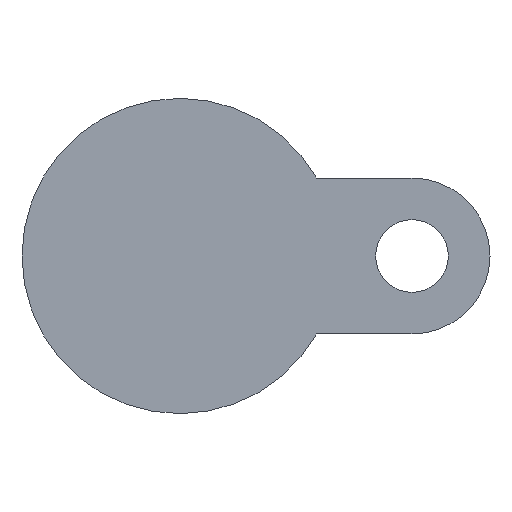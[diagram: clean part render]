
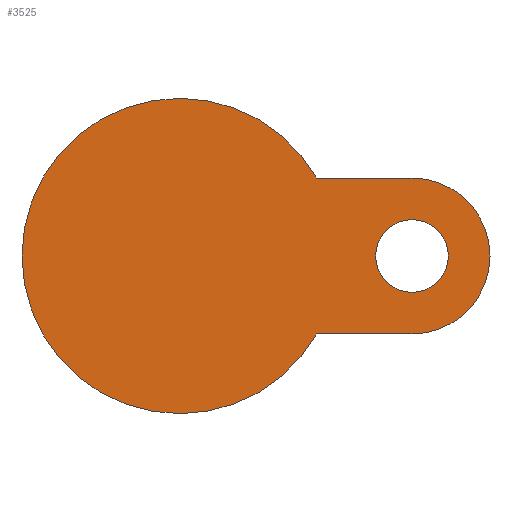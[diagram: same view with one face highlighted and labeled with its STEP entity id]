
A CAD part, front view. The second image highlights one B-rep face of the part: STEP entity #3525.
In plain terms, the highlighted planar face has unit normal (0, -1, 0).
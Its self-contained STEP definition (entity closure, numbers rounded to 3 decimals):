
#92 = DIRECTION ( 'NONE',  ( -1., 0., 0. ) ) ;
#100 = DIRECTION ( 'NONE',  ( -1., 0., 0. ) ) ;
#187 = DIRECTION ( 'NONE',  ( 1., 0., 0. ) ) ;
#298 = EDGE_CURVE ( 'NONE', #3125, #2234, #4572, .T. ) ;
#349 = CIRCLE ( 'NONE', #1074, 8.75 ) ;
#416 = CARTESIAN_POINT ( 'NONE',  ( 56., -17., -18.8 ) ) ;
#444 = AXIS2_PLACEMENT_3D ( 'NONE', #1946, #3646, #5032 ) ;
#479 = CARTESIAN_POINT ( 'NONE',  ( 56., -17., 0. ) ) ;
#508 = CARTESIAN_POINT ( 'NONE',  ( 33.024, -17., 18.8 ) ) ;
#513 = ORIENTED_EDGE ( 'NONE', *, *, #4889, .F. ) ;
#650 = VERTEX_POINT ( 'NONE', #3276 ) ;
#669 = FACE_OUTER_BOUND ( 'NONE', #1960, .T. ) ;
#785 = CIRCLE ( 'NONE', #2670, 38. ) ;
#865 = LINE ( 'NONE', #416, #4609 ) ;
#885 = VECTOR ( 'NONE', #100, 1000. ) ;
#929 = DIRECTION ( 'NONE',  ( 0., 1., 0. ) ) ;
#1074 = AXIS2_PLACEMENT_3D ( 'NONE', #1951, #5391, #5009 ) ;
#1092 = EDGE_CURVE ( 'NONE', #3321, #3125, #3160, .T. ) ;
#1190 = AXIS2_PLACEMENT_3D ( 'NONE', #3145, #4397, #187 ) ;
#1312 = ORIENTED_EDGE ( 'NONE', *, *, #2260, .F. ) ;
#1382 = DIRECTION ( 'NONE',  ( -1., 0., 0. ) ) ;
#1430 = VERTEX_POINT ( 'NONE', #4357 ) ;
#1880 = DIRECTION ( 'NONE',  ( 0., 1., 0. ) ) ;
#1946 = CARTESIAN_POINT ( 'NONE',  ( 0., -17., 0. ) ) ;
#1951 = CARTESIAN_POINT ( 'NONE',  ( 56., -17., 0. ) ) ;
#1960 = EDGE_LOOP ( 'NONE', ( #1312, #3852, #5523, #2376, #3579, #513 ) ) ;
#1977 = ORIENTED_EDGE ( 'NONE', *, *, #3185, .F. ) ;
#2220 = CARTESIAN_POINT ( 'NONE',  ( 20.593, -17., 18.8 ) ) ;
#2234 = VERTEX_POINT ( 'NONE', #3461 ) ;
#2260 = EDGE_CURVE ( 'NONE', #650, #5158, #5363, .T. ) ;
#2333 = AXIS2_PLACEMENT_3D ( 'NONE', #4752, #929, #1382 ) ;
#2371 = FACE_BOUND ( 'NONE', #5113, .T. ) ;
#2376 = ORIENTED_EDGE ( 'NONE', *, *, #298, .T. ) ;
#2422 = CARTESIAN_POINT ( 'NONE',  ( 56., -17., 0. ) ) ;
#2670 = AXIS2_PLACEMENT_3D ( 'NONE', #3164, #1880, #92 ) ;
#3123 = AXIS2_PLACEMENT_3D ( 'NONE', #2422, #3257, #4909 ) ;
#3125 = VERTEX_POINT ( 'NONE', #3236 ) ;
#3145 = CARTESIAN_POINT ( 'NONE',  ( 56., -17., 0. ) ) ;
#3153 = CARTESIAN_POINT ( 'NONE',  ( 56., -17., -18.8 ) ) ;
#3160 = CIRCLE ( 'NONE', #4313, 18.8 ) ;
#3164 = CARTESIAN_POINT ( 'NONE',  ( 0., -17., 0. ) ) ;
#3185 = EDGE_CURVE ( 'NONE', #3207, #1430, #349, .T. ) ;
#3207 = VERTEX_POINT ( 'NONE', #5446 ) ;
#3236 = CARTESIAN_POINT ( 'NONE',  ( 74.8, -17., 0. ) ) ;
#3257 = DIRECTION ( 'NONE',  ( 0., -1., 0. ) ) ;
#3276 = CARTESIAN_POINT ( 'NONE',  ( 33.024, -17., -18.8 ) ) ;
#3321 = VERTEX_POINT ( 'NONE', #3153 ) ;
#3461 = CARTESIAN_POINT ( 'NONE',  ( 56., -17., 18.8 ) ) ;
#3506 = EDGE_CURVE ( 'NONE', #1430, #3207, #5532, .T. ) ;
#3525 = ADVANCED_FACE ( 'NONE', ( #669, #2371 ), #4062, .T. ) ;
#3579 = ORIENTED_EDGE ( 'NONE', *, *, #4569, .T. ) ;
#3646 = DIRECTION ( 'NONE',  ( 0., -1., 0. ) ) ;
#3852 = ORIENTED_EDGE ( 'NONE', *, *, #5263, .T. ) ;
#3939 = DIRECTION ( 'NONE',  ( 0., -1., 0. ) ) ;
#3972 = LINE ( 'NONE', #2220, #885 ) ;
#4062 = PLANE ( 'NONE',  #444 ) ;
#4313 = AXIS2_PLACEMENT_3D ( 'NONE', #479, #3939, #4387 ) ;
#4357 = CARTESIAN_POINT ( 'NONE',  ( 47.25, -17., 0. ) ) ;
#4387 = DIRECTION ( 'NONE',  ( 1., 0., 0. ) ) ;
#4397 = DIRECTION ( 'NONE',  ( 0., -1., 0. ) ) ;
#4569 = EDGE_CURVE ( 'NONE', #2234, #4812, #3972, .T. ) ;
#4572 = CIRCLE ( 'NONE', #1190, 18.8 ) ;
#4575 = DIRECTION ( 'NONE',  ( 1., 0., 0. ) ) ;
#4609 = VECTOR ( 'NONE', #4575, 1000. ) ;
#4752 = CARTESIAN_POINT ( 'NONE',  ( 0., -17., 0. ) ) ;
#4812 = VERTEX_POINT ( 'NONE', #508 ) ;
#4889 = EDGE_CURVE ( 'NONE', #5158, #4812, #785, .T. ) ;
#4909 = DIRECTION ( 'NONE',  ( 1., 0., 0. ) ) ;
#5009 = DIRECTION ( 'NONE',  ( 1., 0., 0. ) ) ;
#5032 = DIRECTION ( 'NONE',  ( 1., 0., 0. ) ) ;
#5113 = EDGE_LOOP ( 'NONE', ( #1977, #5248 ) ) ;
#5131 = CARTESIAN_POINT ( 'NONE',  ( -38., -17., 0. ) ) ;
#5158 = VERTEX_POINT ( 'NONE', #5131 ) ;
#5248 = ORIENTED_EDGE ( 'NONE', *, *, #3506, .F. ) ;
#5263 = EDGE_CURVE ( 'NONE', #650, #3321, #865, .T. ) ;
#5363 = CIRCLE ( 'NONE', #2333, 38. ) ;
#5391 = DIRECTION ( 'NONE',  ( 0., -1., 0. ) ) ;
#5446 = CARTESIAN_POINT ( 'NONE',  ( 64.75, -17., 0. ) ) ;
#5523 = ORIENTED_EDGE ( 'NONE', *, *, #1092, .T. ) ;
#5532 = CIRCLE ( 'NONE', #3123, 8.75 ) ;
